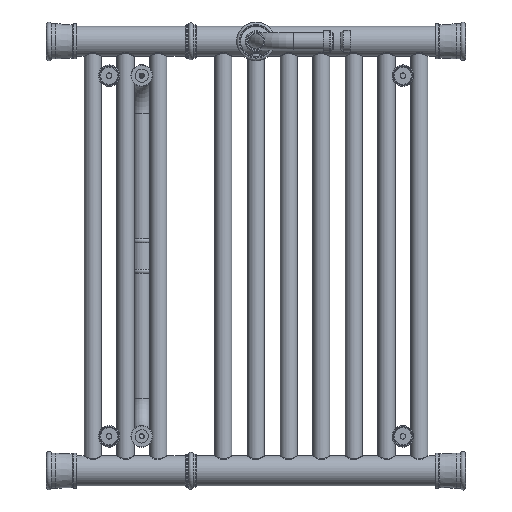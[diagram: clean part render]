
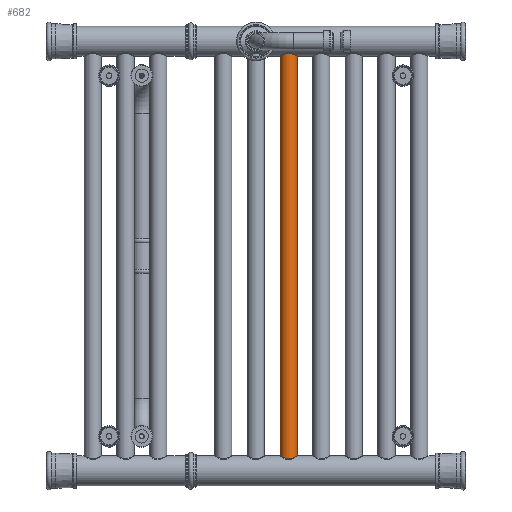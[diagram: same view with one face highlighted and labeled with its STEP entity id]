
A CAD part, left-side view. The second image highlights one B-rep face of the part: STEP entity #682.
In plain terms, the highlighted cylindrical face has radius 10 mm (diameter 20 mm), a full revolution.
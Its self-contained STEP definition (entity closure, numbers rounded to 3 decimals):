
#682 = ADVANCED_FACE( '', ( #1462, #1463 ), #1464, .T. );
#1462 = FACE_OUTER_BOUND( '', #2905, .T. );
#1463 = FACE_OUTER_BOUND( '', #2906, .T. );
#1464 = CYLINDRICAL_SURFACE( '', #2907, 10. );
#2905 = EDGE_LOOP( '', ( #4347 ) );
#2906 = EDGE_LOOP( '', ( #4348 ) );
#2907 = AXIS2_PLACEMENT_3D( '', #4349, #4350, #4351 );
#4347 = ORIENTED_EDGE( '', *, *, #6191, .T. );
#4348 = ORIENTED_EDGE( '', *, *, #6192, .F. );
#4349 = CARTESIAN_POINT( '', ( 242., 0., 0. ) );
#4350 = DIRECTION( '', ( 1., 0., 0. ) );
#4351 = DIRECTION( '', ( 0., 0., 1. ) );
#6191 = EDGE_CURVE( '', #6826, #6826, #6827, .T. );
#6192 = EDGE_CURVE( '', #6828, #6828, #6829, .T. );
#6826 = VERTEX_POINT( '', #7965 );
#6827 = CIRCLE( '', #7966, 10. );
#6828 = VERTEX_POINT( '', #7967 );
#6829 = CIRCLE( '', #7968, 10. );
#7965 = CARTESIAN_POINT( '', ( 242., 10., 0. ) );
#7966 = AXIS2_PLACEMENT_3D( '', #12769, #12770, #12771 );
#7967 = CARTESIAN_POINT( '', ( -242., 10., 0. ) );
#7968 = AXIS2_PLACEMENT_3D( '', #12772, #12773, #12774 );
#12769 = CARTESIAN_POINT( '', ( 242., 0., 0. ) );
#12770 = DIRECTION( '', ( -1., 0., 0. ) );
#12771 = DIRECTION( '', ( 0., 1., 0. ) );
#12772 = CARTESIAN_POINT( '', ( -242., 0., 0. ) );
#12773 = DIRECTION( '', ( -1., 0., 0. ) );
#12774 = DIRECTION( '', ( 0., 1., 0. ) );
